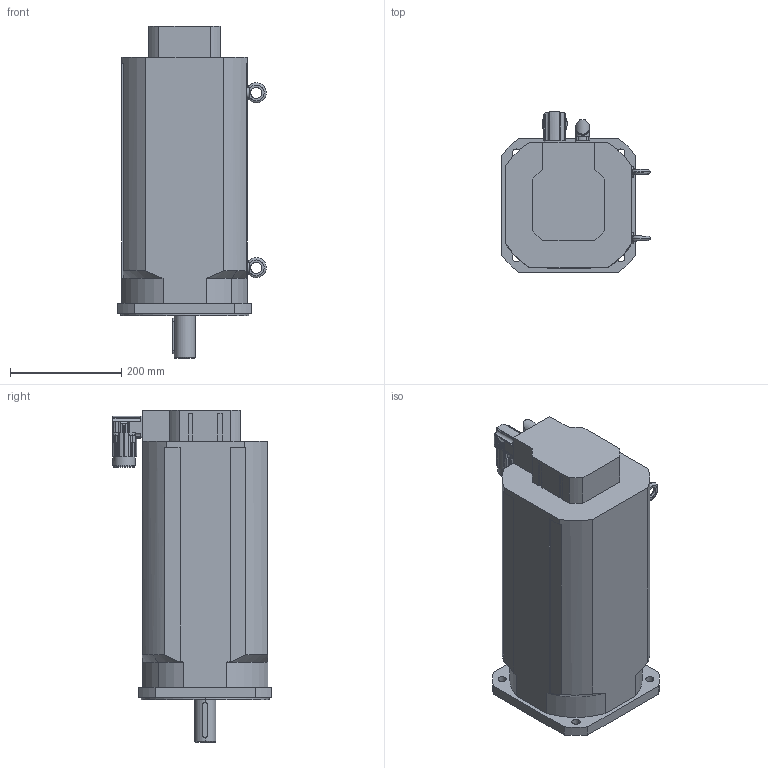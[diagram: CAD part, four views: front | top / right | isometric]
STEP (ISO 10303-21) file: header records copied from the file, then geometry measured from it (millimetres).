
FILE_DESCRIPTION(('STEP AP203'),'2;1');
FILE_NAME('MT8-1150_X.stp','2006-08-28T21:00:24',(''),(''),'2005.2.102','THINKDESIGN','');
FILE_SCHEMA(('CONFIG_CONTROL_DESIGN'));
Length unit declared in the file: millimetre
Bounding box: 266.5 x 287.18 x 596 mm (x, y, z)
Volume: 23157572.6 mm3; surface area: 576059.3 mm2
Topology: 5 solids, 5 shells, 534 faces, 1442 edges, 929 vertices
Faces by surface type: cylinder 259, plane 194, bspline 81
Full cylindrical faces by diameter (mm): 20 x2, 23 x1, 37.8 x1, 40 x1
Entity records: 19287 total; most frequent: CARTESIAN_POINT 5926, ORIENTED_EDGE 2872, DIRECTION 2774, EDGE_CURVE 1436, AXIS2_PLACEMENT_3D 1055, VERTEX_POINT 929, VECTOR 664, LINE 664
